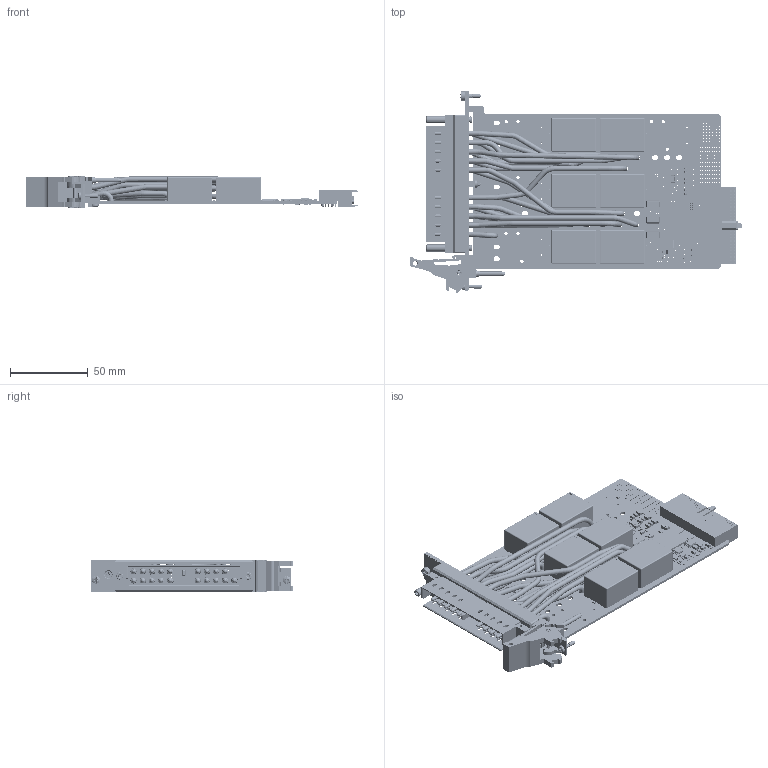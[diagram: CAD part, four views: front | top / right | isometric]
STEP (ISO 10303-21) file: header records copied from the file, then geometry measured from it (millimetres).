
FILE_DESCRIPTION (( 'STEP AP214' ), '1' );
FILE_NAME ('40-166-901 PXI Power Relay Module 3xDPDT 20 Amp.step', '2023-03-16T16:56:12', ( '' ), ( '' ), 'SwSTEP 2.0', 'SolidWorks 2021', '' );
FILE_SCHEMA (( 'AUTOMOTIVE_DESIGN' ));
Length unit declared in the file: millimetre
Products named in the file (99): A-WR-217-001 Wire and pin assembly_C-WR-217-001-04 (4 - C2); C-IC-226  16 Bit Driver IC; A-WR-217-001 Wire and pin assembly_C-WR-217-001-21 (2 - C1); C-CN-355 Compact pci connector 3_Render; C-FX-165 Handle Finger; C-FX-1150 2-56 UNC x 5-8 Inch Phillips Pan Head Screw A2 Stainless Steel; A-FP-1076-L1 PXI 3U x 1 Slot Full Assy; C-MS-803 BEAD 120R 0603 2A 0R05 25%; A-WR-217-001 Wire and pin assembly_C-WR-217-001-24 (8 - B6a); C-FX-165 Handle Pin; C-IC-442 VSSOP 8PIN SD; C-WR-217-001 Wire_35; C-FX-101 Screw, M2.5 x 6, Pan Hd, Pozi, Steel, BZP; A-WR-217-001 Wire and pin assembly_C-WR-217-001-34 (1 - B3); A-WR-217-001 Wire and pin assembly_C-WR-217-001-31 (9 - C7); C-WR-217-001 Wire_37; C-IC-458 LDO VOLTAGE REGULATOR 1.2V SOT; C-WR-217-001 Wire_32; C-IC-425 SOICN 8PIN SD; C-WR-217-001 Wire_33; P-FX-017 M2,5 Collar Posi-Slot Screw; C-CN-1560-Washer 20 Way Male Connector Washer; C-WR-217-001 Wire_36; C-RS-147 Res 100R 0603 1-16W 1% 100PPM; C-BK-026 Bush Front Panel Mounting; L-FX-165 PXI Handle Label; C-FX-1096 M2.5 Short Self-Clinch Nut; C-CP-139 CAP 4.7UF 1206 16V X7R 10%; A-WR-217-001 Wire and pin assembly_C-WR-217-001-25 (10 - C6); C-WR-217-001 Wire_24; L-FP-1076 PXI 3U x 1 Slot FP Label Assy; C-WR-217-001 Wire_28; C-IC-447 24 BIT BUS SWITCH 56PIN BGA; C-FX-165 CPCI Ejector Handle; A-WR-217-001 Wire and pin assembly_C-WR-217-001-26 (12 - A6a); C-CN-1071; C-SC-168 SOT363 Complementary MOSFET 20V-8V; A-WR-217-001 Wire and pin assembly_C-WR-217-001-36 (7 - B7); C-CP-099 CAP 0.1uF 16V 0402 SMT; 40-166-901 PXI Power Relay Module 3xDPDT 20 Amp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
Assembly tree (245 placements, depth 5):
  40-166-901 PXI Power Relay Module 3xDPDT 20 Amp
    A-PC-1357-B SPDT 30A & 20A High Current Modul
      A-PC-1357-B-# SPDT 30A & 20A High Current Modul
        C-PC-1357 30A & 20A High Current Modul PCB
        C-RS-190 Res 0R0 SIZE 0603 SMT  x4
        C-CP-034  x19
        C-SC-168 SOT363 Complementary MOSFET 20V-8V  x2
        C-IC-226  16 Bit Driver IC  x3
        C-RS-575 SMD Chip Resistor, 0603  x3
        C-RL-366 Power Relay  x6
        C-SC-056 80V 250mA (DC) SOD323 Diode  x10
        C-IC-425 SOICN 8PIN SD
        C-IC-426 32-Flash Memory Standard Serial NOR 32Mbit SPI WSOIC-8
        C-IC-442 VSSOP 8PIN SD
        C-IC-458 LDO VOLTAGE REGULATOR 1.2V SOT  x2
        C-IC-447 24 BIT BUS SWITCH 56PIN BGA  x2
        C-IC-369 FPGA 17000 Cells 65nm Technology 1.2V 256-Pin FTBGA
        C-RS-148 Res 1K 0603 1-16W 1% 100PPM  x2
        C-RS-659 RES NW 4K7 4RES 8PINS SMT1206  x4
        C-RS-152 Res 10K 0603 1-16W 1% 300PPM  x2
        C-RS-521 Res 120R (0603) 1-16W 1% 100pp
        C-RS-147 Res 100R 0603 1-16W 1% 100PPM
        C-SC-146 Dual Transistor SOT-14  x2
        C-MS-803 BEAD 120R 0603 2A 0R05 25%  x4
        C-CN-1071
          C-CN-107-BODY
          C-CN-107-PIN  x8
        C-CN-355 Compact pci connector 3_Render
        C-CP-124 CAP 10nF CERAMIC SMT 0402  x34
        C-CP-099 CAP 0.1uF 16V 0402 SMT  x16
        C-CP-134 CAP 1uF CERAMIC SMT 0805  x4
        C-CP-175 CAP 22uF 1206 25V X5R 10%  x4
        C-CP-139 CAP 4.7UF 1206 16V X7R 10%  x4
        C-CP-141 CAP 10UF 1206 35V X5R 10%  x7
        C-CP-239  Power Line Filter  x3
    C-CN-1560-Body 20 Way Male Connector Shell
    A-FP-1076-L1 PXI 3U x 1 Slot Full Assy
      A-FP-1076 PXI 3U x 1 Slot FP+Label
        C-FP-1076 PXI 3U x 1 Slot FP_Vìchoz¡
          C-BP-068 10mm Thick PXI 3U x 1 Slot Blank Panel
        L-FP-1076 PXI 3U x 1 Slot FP Label Assy
          L-FP-1076-# PXI 3U x 1 Slot FP Label
        C-FX-1096 M2.5 Short Self-Clinch Nut
      C-FX-042 Screw M2.5x6 CSK Pozi_M 2.5x06 - C-FX-042
      C-FX-101 Screw, M2.5 x 6, Pan Hd, Pozi, Steel, BZP
      Z-FX-2001 FP Fixing - Bush + Screw
        C-BK-026 Bush Front Panel Mounting
        P-FX-017 M2,5 Collar Posi-Slot Screw
      C-FX-165 CPCI Ejector Handle
        C-FX-165 Handle Body
        C-FX-165 Handle Finger
        C-FX-165 Handle Pin
        P-FX-017 M2,5 Collar Posi-Slot Screw
        L-FX-165 PXI Handle Label
      C-FX-456 PXI 1-Slot Mtg Block DIN 41612
    C-FX-849 L Shaped Mounting Block_C-FX-314
    C-FX-298 Screw, M2.5 x 8, Pan Hd, Pozi, A2 St Steel, Thread Locking
    C-FX-101 Screw, M2.5 x 6, Pan Hd, Pozi, Steel, BZP  x2
    C-FX-856 M2.5 X 5MM PAN HEAD POZI S-S
    A-WR-217-001 Wire and pin assembly_C-WR-217-001-34 (1 - B3)
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Bounding box: 213.7 x 129.63 x 20 mm (x, y, z)
Volume: 138893.8 mm3; surface area: 120730.8 mm2
Topology: 222 solids, 249 shells, 16524 faces, 42651 edges, 27474 vertices
Faces by surface type: plane 10128, cylinder 4486, torus 724, cone 559, sphere 378, bspline 249
Entity records: 436877 total; most frequent: CARTESIAN_POINT 68808, DIRECTION 57837, ORIENTED_EDGE 55848, EDGE_CURVE 27926, AXIS2_PLACEMENT_3D 19486, VECTOR 18865, LINE 18865, VERTEX_POINT 18183
